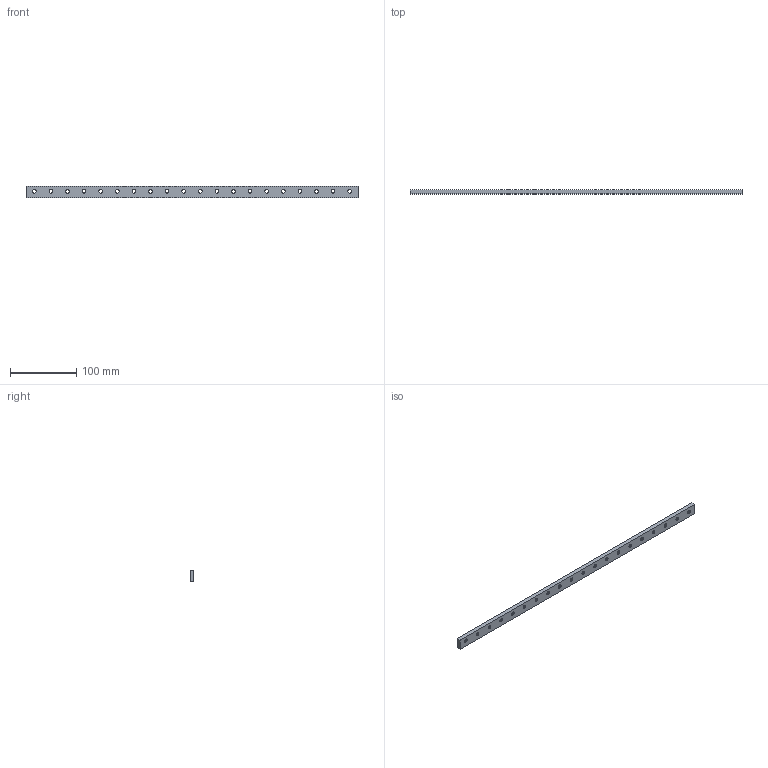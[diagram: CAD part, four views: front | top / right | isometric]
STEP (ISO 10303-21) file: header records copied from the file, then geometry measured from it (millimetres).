
FILE_DESCRIPTION(('CATIA V5 STEP Exchange'),'2;1');
FILE_NAME('C:\Users\Utente\Desktop\IO LAVORO\3D X SITO CF\X SITO\PLASTICA\CF-GP\CF-GP-06-500.stp','2021-02-21T16:04:12+00:00',('none'),('none'),'CATIA Version 5 Release 20 GA (IN-10)','CATIA V5 STEP AP203','none');
FILE_SCHEMA(('CONFIG_CONTROL_DESIGN'));
Length unit declared in the file: millimetre
Products named in the file (1): CF-GP-06-500
Bounding box: 500 x 6 x 17 mm (x, y, z)
Volume: 43766.5 mm3; surface area: 25458.1 mm2
Topology: 1 solids, 1 shells, 106 faces, 412 edges, 328 vertices
Faces by surface type: cylinder 80, plane 26
Entity records: 6238 total; most frequent: CARTESIAN_POINT 2847, ORIENTED_EDGE 824, DIRECTION 464, EDGE_CURVE 412, VERTEX_POINT 328, AXIS2_PLACEMENT_3D 267, EDGE_LOOP 166, B_SPLINE_CURVE_WITH_KNOTS 160
